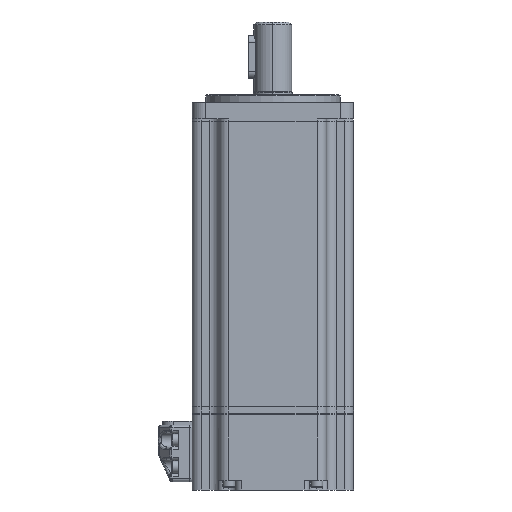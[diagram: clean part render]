
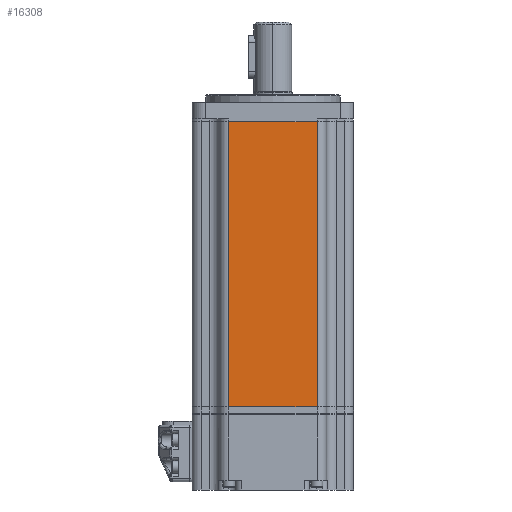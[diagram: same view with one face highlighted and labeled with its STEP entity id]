
A CAD part, front view. The second image highlights one B-rep face of the part: STEP entity #16308.
In plain terms, the highlighted planar face has unit normal (0, -1, 0).
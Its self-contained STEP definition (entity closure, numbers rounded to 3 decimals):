
#994 = ORIENTED_EDGE ( 'NONE', *, *, #30945, .T. ) ;
#1479 = DIRECTION ( 'NONE',  ( -1., 0., 0. ) ) ;
#2387 = VERTEX_POINT ( 'NONE', #42384 ) ;
#2388 = LINE ( 'NONE', #19818, #10190 ) ;
#2908 = LINE ( 'NONE', #19771, #37204 ) ;
#7946 = VECTOR ( 'NONE', #30471, 1000. ) ;
#8493 = ORIENTED_EDGE ( 'NONE', *, *, #20514, .F. ) ;
#8768 = FACE_OUTER_BOUND ( 'NONE', #9814, .T. ) ;
#8791 = VERTEX_POINT ( 'NONE', #28780 ) ;
#9814 = EDGE_LOOP ( 'NONE', ( #8493, #11786, #36363, #994 ) ) ;
#10190 = VECTOR ( 'NONE', #23188, 1000. ) ;
#11267 = CARTESIAN_POINT ( 'NONE',  ( 16.5, -30., -1. ) ) ;
#11786 = ORIENTED_EDGE ( 'NONE', *, *, #31937, .T. ) ;
#12044 = VECTOR ( 'NONE', #1479, 1000. ) ;
#12725 = VERTEX_POINT ( 'NONE', #11267 ) ;
#13252 = DIRECTION ( 'NONE',  ( 0., 0., -1. ) ) ;
#16308 = ADVANCED_FACE ( 'NONE', ( #8768 ), #29954, .F. ) ;
#16967 = DIRECTION ( 'NONE',  ( 0., 1., 0. ) ) ;
#19771 = CARTESIAN_POINT ( 'NONE',  ( -16.5, -30., -107. ) ) ;
#19818 = CARTESIAN_POINT ( 'NONE',  ( 16.5, -30., -107. ) ) ;
#19831 = LINE ( 'NONE', #38048, #12044 ) ;
#20514 = EDGE_CURVE ( 'NONE', #2387, #8791, #19831, .T. ) ;
#23188 = DIRECTION ( 'NONE',  ( 0., 0., 1. ) ) ;
#23730 = CARTESIAN_POINT ( 'NONE',  ( -16.5, -30., -1. ) ) ;
#25618 = LINE ( 'NONE', #36950, #7946 ) ;
#28780 = CARTESIAN_POINT ( 'NONE',  ( -16.5, -30., -107. ) ) ;
#29954 = PLANE ( 'NONE',  #39421 ) ;
#30471 = DIRECTION ( 'NONE',  ( -1., 0., 0. ) ) ;
#30945 = EDGE_CURVE ( 'NONE', #31019, #8791, #2908, .T. ) ;
#31019 = VERTEX_POINT ( 'NONE', #23730 ) ;
#31937 = EDGE_CURVE ( 'NONE', #2387, #12725, #2388, .T. ) ;
#36363 = ORIENTED_EDGE ( 'NONE', *, *, #41909, .T. ) ;
#36874 = CARTESIAN_POINT ( 'NONE',  ( 20., -30., -107. ) ) ;
#36950 = CARTESIAN_POINT ( 'NONE',  ( 20., -30., -1. ) ) ;
#37204 = VECTOR ( 'NONE', #13252, 1000. ) ;
#38048 = CARTESIAN_POINT ( 'NONE',  ( 20., -30., -107. ) ) ;
#39421 = AXIS2_PLACEMENT_3D ( 'NONE', #36874, #16967, #40189 ) ;
#40189 = DIRECTION ( 'NONE',  ( 0., 0., 1. ) ) ;
#41909 = EDGE_CURVE ( 'NONE', #12725, #31019, #25618, .T. ) ;
#42384 = CARTESIAN_POINT ( 'NONE',  ( 16.5, -30., -107. ) ) ;
